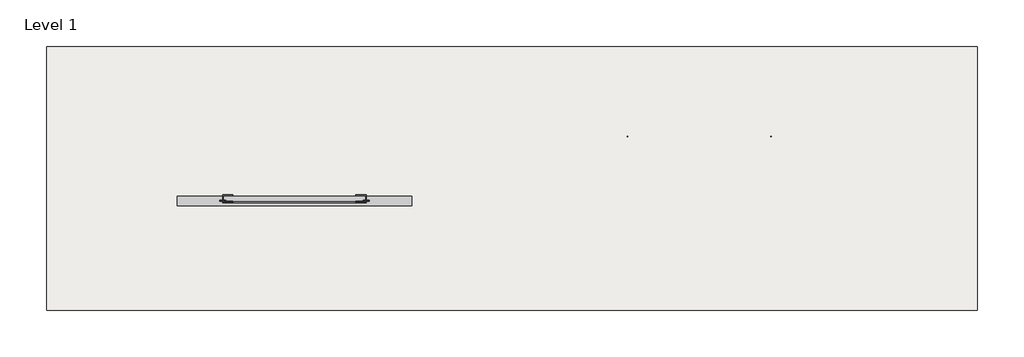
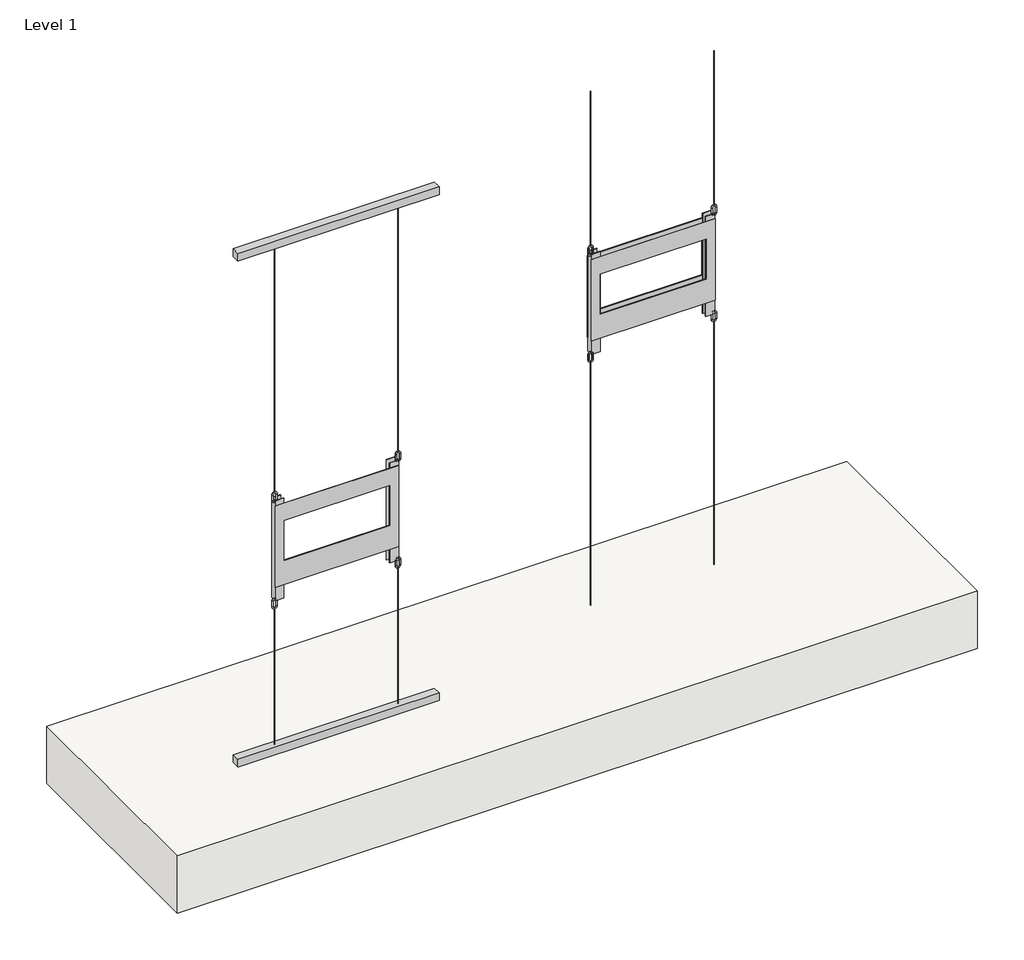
# One storey: 2 proxies, 1 slab.
"""IFC4 building model written with IfcOpenShell, lengths in millimetres."""

from ifc_helpers import new_model, si_unit, frame, origin, place, context, project, spatial, polyline, outline, extrude, transform, mapped, element, save
from components import cable_floor_to_ceiling_flat_panel_mount_2f2725ce, cable_floor_to_ceiling_flat_panel_mount_ade06837

model = new_model("IFC4")

# Units and contexts
model_context = context("Model", 3, world=origin())
ifc_project = project(units=[si_unit("LENGTHUNIT", "METRE", prefix="MILLI")], contexts=[model_context])

# Site, building, storey
site = spatial("IfcSite", under=ifc_project)
building = spatial("IfcBuilding", under=site)
storey = spatial("IfcBuildingStorey", under=building, Name="Level 1", Elevation=0.0)

# Proxies
placement = place(None, origin())
cable_floor_to_ceiling_flat_panel_mount_shape = cable_floor_to_ceiling_flat_panel_mount_2f2725ce(model_context)
element("IfcBuildingElementProxy", 1, Name="Flat_Panel_Mount-Chief-Cable_Floor_to_Ceiling : Cable Floor-to-Ceiling Flat Panel Mount", ObjectType="Flat_Panel_Mount-Chief-Cable_Floor_to_Ceiling : Cable Floor-to-Ceiling Flat Panel Mount", at=placement, inside=storey, context=model_context, shape_type="MappedRepresentation", body=[
    mapped(cable_floor_to_ceiling_flat_panel_mount_shape, transform((3552.849795, 2426.6502346, 0.0), x_axis=(1.0, 0.0, 0.0), y_axis=(0.0, 1.0, 0.0), z_axis=(0.0, 0.0, 1.0))),
])
cable_floor_to_ceiling_flat_panel_mount_2_shape = cable_floor_to_ceiling_flat_panel_mount_ade06837(model_context)
element("IfcBuildingElementProxy", 2, Name="Flat_Panel_Mount-Chief-Cable_Floor_to_Ceiling : Cable Floor-to-Ceiling Flat Panel Mount", ObjectType="Flat_Panel_Mount-Chief-Cable_Floor_to_Ceiling : Cable Floor-to-Ceiling Flat Panel Mount", at=placement, inside=storey, context=model_context, shape_type="MappedRepresentation", body=[
    mapped(cable_floor_to_ceiling_flat_panel_mount_2_shape, transform((1796.7399254, 2148.5097558, 0.0), x_axis=(1.0, 0.0, 0.0), y_axis=(0.0, 1.0, 0.0), z_axis=(0.0, 0.0, 1.0))),
])

# Slab
element("IfcSlab", 3, ObjectType="Generic - 12\"", at=placement, inside=storey, context=model_context, shape_type="SweptSolid", body=[
    extrude(outline(polyline([(4759.7659543, 2825.8758812), (4759.7659543, 1682.8758812), (721.1659543, 1682.8758812), (721.1659543, 2825.8758812), (4759.7659543, 2825.8758812)])), frame((0.0, 0.0, -304.8), z_axis=(0.0, 0.0, 1.0), x_axis=(1.0, 0.0, 0.0)), (0.0, 0.0, 1.0), 304.8),
])

save(model, "model.ifc")
